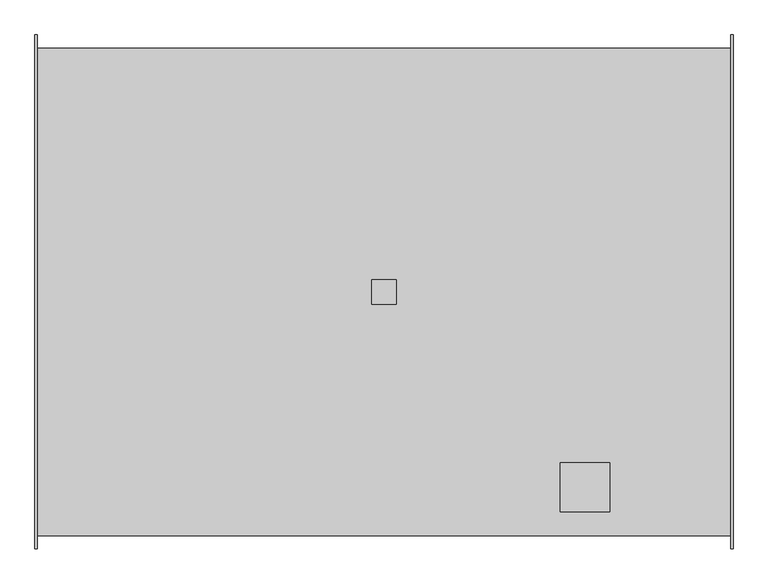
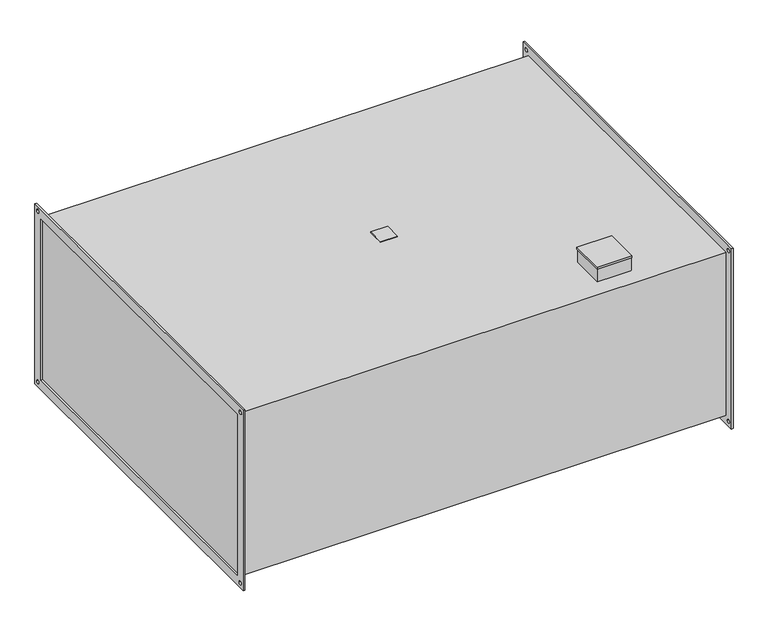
"""IFC4 building model written with IfcOpenShell, lengths in millimetres: damper geometry, KORF_Секция бактерицидной обработки воздуха_SBOW : SBOW 100-50/111 (36)."""

from ifc_helpers import new_model, si_unit, point, frame, frame_2d, origin, place, context, project, spatial, polyline, circle_curve, trimmed, segment, composite_curve, outline, extrude, faceted_brep, source, transform, mapped, element, save


def damper_79e00e70(model_context):
    return source(origin(), model_context, "Body", "SolidModel", [
        extrude(outline(polyline([(695.0, -25.0), (695.0, 25.0), (745.0, 25.0), (745.0, -25.0), (695.0, -25.0)])), frame((0.0, 0.0, 253.0), z_axis=(0.0, 0.0, 1.0), x_axis=(1.0, 0.0, 0.0)), (0.0, 0.0, 1.0), 2.0),
        faceted_brep([(1186.0, -352.0, 300.0), (1084.0, -352.0, 300.0), (1084.0, -454.0, 300.0), (1186.0, -454.0, 300.0), (1186.0, -352.0, 293.0), (1186.0, -454.0, 293.0), (1084.0, -454.0, 293.0), (1084.0, -352.0, 293.0), (1185.0, -353.0, 293.0), (1085.0, -353.0, 293.0), (1085.0, -453.0, 293.0), (1185.0, -453.0, 293.0), (1185.0, -353.0, 253.0), (1185.0, -453.0, 253.0), (1085.0, -453.0, 253.0), (1085.0, -353.0, 253.0)], [[[0, 1, 2, 3]], [[4, 5, 6, 7], [8, 9, 10, 11]], [[1, 0, 4, 7]], [[2, 1, 7, 6]], [[3, 2, 6, 5]], [[0, 3, 5, 4]], [[12, 13, 14, 15]], [[12, 15, 9, 8]], [[15, 14, 10, 9]], [[14, 13, 11, 10]], [[13, 12, 8, 11]]]),
        extrude(outline(polyline([(-530.0, 280.0), (530.0, 280.0), (530.0, -280.0), (-530.0, -280.0), (-530.0, 280.0)]), holes=[polyline([(-500.0, 250.0), (-500.0, -250.0), (500.0, -250.0), (500.0, 250.0), (-500.0, 250.0)]), composite_curve([segment(trimmed(circle_curve(frame_2d((515.0, 265.0)), 5.5), [point((509.5, 265.0))], [point((520.5, 265.0))], True, "CARTESIAN"), True, "CONTINUOUS"), segment(trimmed(circle_curve(frame_2d((515.0, 265.0)), 5.5), [point((520.5, 265.0))], [point((509.5, 265.0))], True, "CARTESIAN"), True, "CONTINUOUS")], self_intersect=False), composite_curve([segment(trimmed(circle_curve(frame_2d((-515.0, 265.0)), 5.5), [point((-520.5, 265.0))], [point((-509.5, 265.0))], True, "CARTESIAN"), True, "CONTINUOUS"), segment(trimmed(circle_curve(frame_2d((-515.0, 265.0)), 5.5), [point((-509.5, 265.0))], [point((-520.5, 265.0))], True, "CARTESIAN"), True, "CONTINUOUS")], self_intersect=False), composite_curve([segment(trimmed(circle_curve(frame_2d((-515.0, -265.0)), 5.5), [point((-520.5, -265.0))], [point((-509.5, -265.0))], True, "CARTESIAN"), True, "CONTINUOUS"), segment(trimmed(circle_curve(frame_2d((-515.0, -265.0)), 5.5), [point((-509.5, -265.0))], [point((-520.5, -265.0))], True, "CARTESIAN"), True, "CONTINUOUS")], self_intersect=False), composite_curve([segment(trimmed(circle_curve(frame_2d((515.0, -265.0)), 5.5), [point((509.5, -265.0))], [point((520.5, -265.0))], True, "CARTESIAN"), True, "CONTINUOUS"), segment(trimmed(circle_curve(frame_2d((515.0, -265.0)), 5.5), [point((520.5, -265.0))], [point((509.5, -265.0))], True, "CARTESIAN"), True, "CONTINUOUS")], self_intersect=False)]), frame((1435.0, 0.0, 0.0), z_axis=(1.0, 0.0, 0.0), x_axis=(0.0, 1.0, 0.0)), (0.0, 0.0, 1.0), 5.0),
        extrude(outline(polyline([(-530.0, 280.0), (530.0, 280.0), (530.0, -280.0), (-530.0, -280.0), (-530.0, 280.0)]), holes=[polyline([(-500.0, 250.0), (-500.0, -250.0), (500.0, -250.0), (500.0, 250.0), (-500.0, 250.0)]), composite_curve([segment(trimmed(circle_curve(frame_2d((515.0, 265.0)), 5.5), [point((509.5, 265.0))], [point((520.5, 265.0))], True, "CARTESIAN"), True, "CONTINUOUS"), segment(trimmed(circle_curve(frame_2d((515.0, 265.0)), 5.5), [point((520.5, 265.0))], [point((509.5, 265.0))], True, "CARTESIAN"), True, "CONTINUOUS")], self_intersect=False), composite_curve([segment(trimmed(circle_curve(frame_2d((-515.0, 265.0)), 5.5), [point((-520.5, 265.0))], [point((-509.5, 265.0))], True, "CARTESIAN"), True, "CONTINUOUS"), segment(trimmed(circle_curve(frame_2d((-515.0, 265.0)), 5.5), [point((-509.5, 265.0))], [point((-520.5, 265.0))], True, "CARTESIAN"), True, "CONTINUOUS")], self_intersect=False), composite_curve([segment(trimmed(circle_curve(frame_2d((-515.0, -265.0)), 5.5), [point((-520.5, -265.0))], [point((-509.5, -265.0))], True, "CARTESIAN"), True, "CONTINUOUS"), segment(trimmed(circle_curve(frame_2d((-515.0, -265.0)), 5.5), [point((-509.5, -265.0))], [point((-520.5, -265.0))], True, "CARTESIAN"), True, "CONTINUOUS")], self_intersect=False), composite_curve([segment(trimmed(circle_curve(frame_2d((515.0, -265.0)), 5.5), [point((509.5, -265.0))], [point((520.5, -265.0))], True, "CARTESIAN"), True, "CONTINUOUS"), segment(trimmed(circle_curve(frame_2d((515.0, -265.0)), 5.5), [point((520.5, -265.0))], [point((509.5, -265.0))], True, "CARTESIAN"), True, "CONTINUOUS")], self_intersect=False)]), frame((0.0, 0.0, 0.0), z_axis=(1.0, 0.0, 0.0), x_axis=(0.0, 1.0, 0.0)), (0.0, 0.0, 1.0), 5.0),
        extrude(outline(polyline([(1435.0, 503.0), (1435.0, -503.0), (5.0, -503.0), (5.0, 503.0), (1435.0, 503.0)])), frame((0.0, 0.0, -253.0), z_axis=(0.0, 0.0, 1.0), x_axis=(1.0, 0.0, 0.0)), (0.0, 0.0, 1.0), 506.0),
    ])


if __name__ == "__main__":
    model = new_model("IFC4")
    model_context = context("Model", 3, world=origin())
    ifc_project = project(units=[si_unit("LENGTHUNIT", "METRE", prefix="MILLI")], contexts=[model_context])
    site = spatial("IfcSite", under=ifc_project)
    building = spatial("IfcBuilding", under=site)
    placement = place(None, origin())
    damper_shape = damper_79e00e70(model_context)
    element("IfcDamper", 1, ObjectType="KORF_Секция бактерицидной обработки воздуха_SBOW : SBOW 100-50/111 (36)", at=placement, inside=building, context=model_context, shape_type="MappedRepresentation", body=[
        mapped(damper_shape, transform((0.0, 0.0, 0.0), x_axis=(1.0, 0.0, 0.0), y_axis=(0.0, 1.0, 0.0), z_axis=(0.0, 0.0, 1.0))),
    ])
    save(model, "model.ifc")
